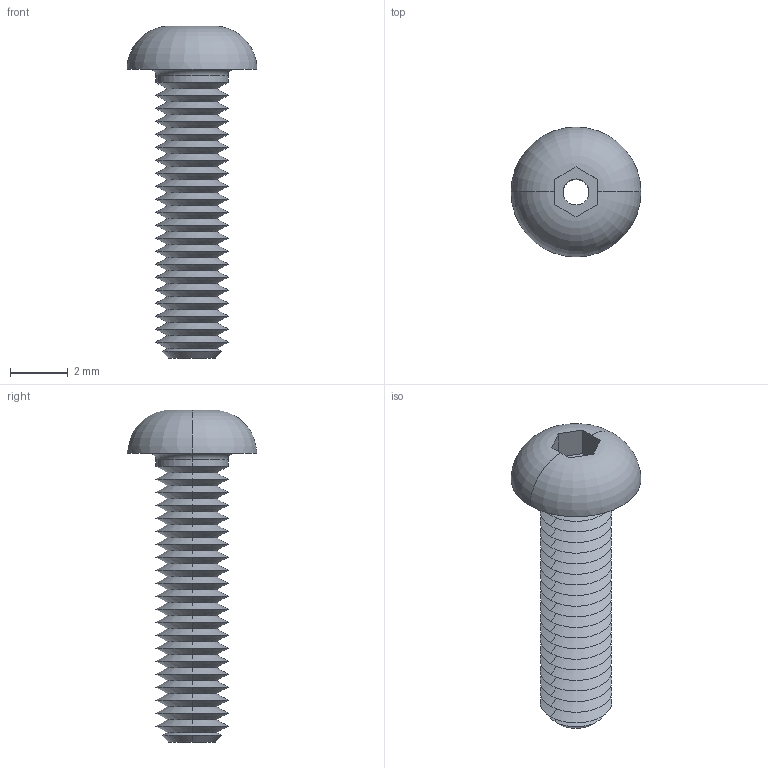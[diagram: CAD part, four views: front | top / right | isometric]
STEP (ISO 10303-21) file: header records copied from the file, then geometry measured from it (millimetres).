
FILE_DESCRIPTION (( 'STEP AP203' ), '1' );
FILE_NAME ('P0094.025-010-A2.step', '2019-07-12T16:50:41', ( '' ), ( '' ), 'SwSTEP 2.0', 'SolidWorks 2017', '' );
FILE_SCHEMA (( 'CONFIG_CONTROL_DESIGN' ));
Length unit declared in the file: millimetre
Products named in the file (1): P0094.025-010-A2
Bounding box: 4.5 x 4.5 x 11.5 mm (x, y, z)
Volume: 45.2 mm3; surface area: 201.7 mm2
Topology: 1 solids, 1 shells, 103 faces, 212 edges, 112 vertices
Faces by surface type: cone 86, plane 9, cylinder 4, torus 4
Entity records: 2745 total; most frequent: DIRECTION 514, CARTESIAN_POINT 464, ORIENTED_EDGE 424, EDGE_CURVE 212, AXIS2_PLACEMENT_3D 206, VERTEX_POINT 112, EDGE_LOOP 106, ADVANCED_FACE 103
